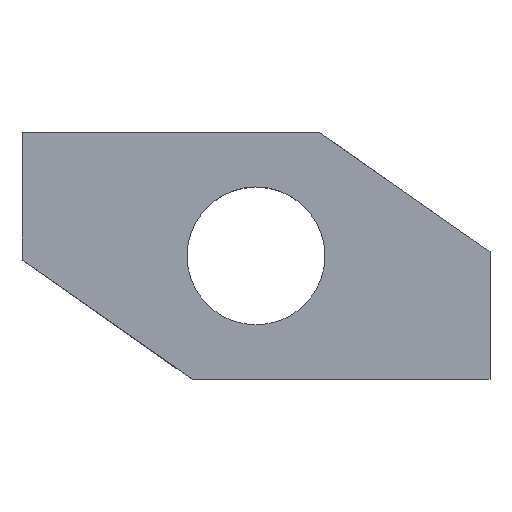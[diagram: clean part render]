
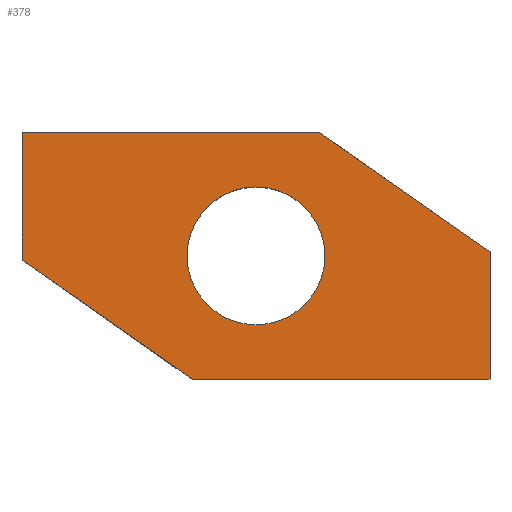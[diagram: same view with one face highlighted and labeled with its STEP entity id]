
A CAD part, top view. The second image highlights one B-rep face of the part: STEP entity #378.
In plain terms, the highlighted planar face has unit normal (0, 0, 1).
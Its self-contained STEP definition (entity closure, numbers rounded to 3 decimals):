
#81=CARTESIAN_POINT('',(7.121,2.9,0.0));
#82=VERTEX_POINT('',#81);
#83=CARTESIAN_POINT('',(5.5,2.9,0.0));
#84=DIRECTION('',(0.0,0.0,-1.0));
#85=DIRECTION('',(1.0,0.0,0.0));
#86=AXIS2_PLACEMENT_3D('',#83,#84,#85);
#87=CIRCLE('',#86,1.621);
#88=EDGE_CURVE('',#82,#82,#87,.T.);
#147=CARTESIAN_POINT('',(7.,5.8,0.0));
#148=VERTEX_POINT('',#147);
#155=CARTESIAN_POINT('',(11.0,2.999,0.0));
#156=VERTEX_POINT('',#155);
#157=CARTESIAN_POINT('',(11.0,2.999,0.0));
#158=DIRECTION('',(-0.819,0.574,0.0));
#159=VECTOR('',#158,4.883);
#160=LINE('',#157,#159);
#161=EDGE_CURVE('',#156,#148,#160,.T.);
#252=CARTESIAN_POINT('',(0.0,5.8,0.0));
#253=VERTEX_POINT('',#252);
#260=CARTESIAN_POINT('',(7.,5.8,0.0));
#261=DIRECTION('',(-1.0,0.0,0.0));
#262=VECTOR('',#261,7.);
#263=LINE('',#260,#262);
#264=EDGE_CURVE('',#148,#253,#263,.T.);
#277=CARTESIAN_POINT('',(0.,2.801,0.0));
#278=VERTEX_POINT('',#277);
#285=CARTESIAN_POINT('',(0.0,5.8,0.0));
#286=DIRECTION('',(0.0,-1.0,0.0));
#287=VECTOR('',#286,2.999);
#288=LINE('',#285,#287);
#289=EDGE_CURVE('',#253,#278,#288,.T.);
#302=CARTESIAN_POINT('',(4.0,0.0,0.0));
#303=VERTEX_POINT('',#302);
#310=CARTESIAN_POINT('',(0.,2.801,0.0));
#311=DIRECTION('',(0.819,-0.574,0.0));
#312=VECTOR('',#311,4.883);
#313=LINE('',#310,#312);
#314=EDGE_CURVE('',#278,#303,#313,.T.);
#326=CARTESIAN_POINT('',(11.0,0.0,0.0));
#327=VERTEX_POINT('',#326);
#334=CARTESIAN_POINT('',(4.0,0.0,0.0));
#335=DIRECTION('',(1.0,0.0,0.0));
#336=VECTOR('',#335,7.0);
#337=LINE('',#334,#336);
#338=EDGE_CURVE('',#303,#327,#337,.T.);
#352=CARTESIAN_POINT('',(11.0,0.0,0.0));
#353=DIRECTION('',(0.0,1.0,0.0));
#354=VECTOR('',#353,2.999);
#355=LINE('',#352,#354);
#356=EDGE_CURVE('',#327,#156,#355,.T.);
#362=CARTESIAN_POINT('',(5.5,2.9,0.0));
#363=DIRECTION('',(0.0,0.0,1.0));
#364=DIRECTION('',(1.0,0.0,0.0));
#365=AXIS2_PLACEMENT_3D('',#362,#363,#364);
#366=PLANE('',#365);
#367=ORIENTED_EDGE('',*,*,#356,.T.);
#368=ORIENTED_EDGE('',*,*,#161,.T.);
#369=ORIENTED_EDGE('',*,*,#264,.T.);
#370=ORIENTED_EDGE('',*,*,#289,.T.);
#371=ORIENTED_EDGE('',*,*,#314,.T.);
#372=ORIENTED_EDGE('',*,*,#338,.T.);
#373=EDGE_LOOP('',(#367,#368,#369,#370,#371,#372));
#374=FACE_OUTER_BOUND('',#373,.T.);
#375=ORIENTED_EDGE('',*,*,#88,.T.);
#376=EDGE_LOOP('',(#375));
#377=FACE_BOUND('',#376,.T.);
#378=ADVANCED_FACE('',(#374,#377),#366,.T.);
